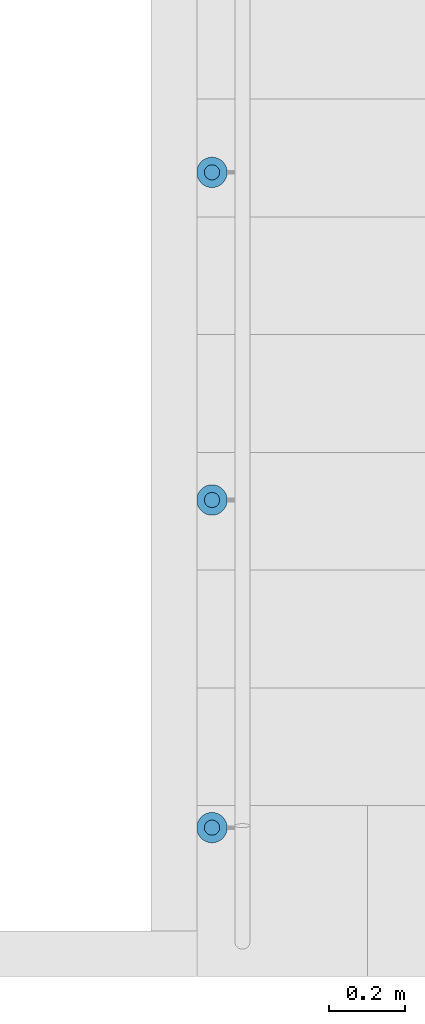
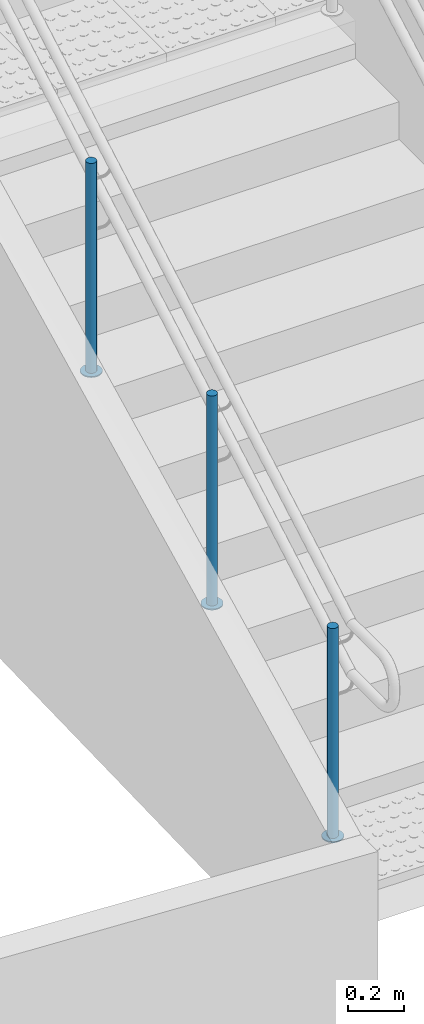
# One storey, part 84 of 237: 6 building element parts, 1 element without a shape of its own.
"""IFC2X3 building model written with IfcOpenShell, lengths in millimetres."""

from ifc_helpers import new_model, entity, si_unit, converted_unit, derived_unit, money_unit, direction, frame, origin_with_axes, place, context, subcontext, project, spatial, faceted_brep, material, type_object, element, aggregate, save


model = new_model("IFC2X3")

# Units and contexts
model_context = context("Model", 3, precision=0.01, world=origin_with_axes(), true_north=direction((0.0, 1.0)))
body_context = subcontext(model_context, "Body", "Model", "MODEL_VIEW")
ifc_project = project(units=[si_unit("LENGTHUNIT", "METRE", prefix="MILLI"), si_unit("AREAUNIT", "SQUARE_METRE"), si_unit("VOLUMEUNIT", "CUBIC_METRE"), converted_unit("PLANEANGLEUNIT", "DEGREE", entity("IfcPlaneAngleMeasure", 0.0174532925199), si_unit("PLANEANGLEUNIT", "RADIAN"), dimensions=[0, 0, 0, 0, 0, 0, 0]), money_unit("USD"), converted_unit("TIMEUNIT", "Year", entity("IfcTimeMeasure", 31556926.0), si_unit("TIMEUNIT", "SECOND"), dimensions=[0, 0, 1, 0, 0, 0, 0]), si_unit("MASSUNIT", "GRAM", prefix="KILO"), si_unit("THERMODYNAMICTEMPERATUREUNIT", "DEGREE_CELSIUS"), si_unit("LUMINOUSINTENSITYUNIT", "LUMEN"), si_unit("ENERGYUNIT", "JOULE", prefix="MEGA"), derived_unit("THERMALCONDUCTANCEUNIT", [(si_unit("POWERUNIT", "WATT"), 1), (si_unit("LENGTHUNIT", "METRE"), -1), (si_unit("THERMODYNAMICTEMPERATUREUNIT", "KELVIN"), -1)]), derived_unit("SPECIFICHEATCAPACITYUNIT", [(si_unit("ENERGYUNIT", "JOULE"), 1), (si_unit("MASSUNIT", "GRAM", prefix="KILO"), -1), (si_unit("THERMODYNAMICTEMPERATUREUNIT", "KELVIN"), -1)]), derived_unit("MASSDENSITYUNIT", [(si_unit("MASSUNIT", "GRAM", prefix="KILO"), 1), (si_unit("VOLUMEUNIT", "CUBIC_METRE"), -1)])], contexts=[model_context])

# Site, building, storey
site_placement = place(None, origin_with_axes())
site = spatial("IfcSite", under=ifc_project, at=site_placement, Name="Local", CompositionType="ELEMENT")
building_placement = place(site_placement, origin_with_axes())
building = spatial("IfcBuilding", under=site, at=building_placement, Name="Construção", CompositionType="ELEMENT")
storey_placement = place(building_placement, origin_with_axes())
storey = spatial("IfcBuildingStorey", under=building, at=storey_placement, Name="Pavimento Térreo", CompositionType="ELEMENT", Elevation=0.0)

# Railing, building element parts
railing_type = type_object("IfcRailingType", Name="Tipo de Guarda-Corpo", PredefinedType="NOTDEFINED")
railing_placement = place(storey_placement, frame((40562.4440926, 15092.6936335, -3109.00146785), z_axis=(0.0, 0.0, 1.0), x_axis=(1.0, 0.0, 0.0)))
railing = element("IfcRailing", 1, at=railing_placement, inside=storey, type_object=railing_type, Name="Guarda-Corpo - 001", PredefinedType="NOTDEFINED")
ifc_material_1 = material(Name="Aço - Inoxidável")
building_element_part_1_placement = place(railing_placement, origin_with_axes())
building_element_part_1 = element("IfcBuildingElementPart", 2, at=building_element_part_1_placement, material=ifc_material_1, Name="Aço - Inoxidável", context=body_context, shape_type="Brep", body=[
    faceted_brep([(20.3038449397, -2673.7990362, 27.7571550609), (20.0, -2677.27199975, 27.7571550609), (20.0, -2677.27199975, 942.757155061), (20.3038449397, -2673.7990362, 942.757155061), (20.3038449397, -2680.7449633, 27.7571550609), (21.2061475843, -2670.43159688, 27.7571550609), (22.6794919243, -2667.27199975, 27.7571550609), (24.6791111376, -2664.41624756, 27.7571550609), (27.1442478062, -2661.95111089, 27.7571550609), (30.0, -2659.95149168, 27.7571550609), (33.1595971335, -2658.47814734, 27.7571550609), (36.5270364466, -2657.57584469, 27.7571550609), (40.0, -2657.27199975, 27.7571550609), (43.4729635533, -2657.57584469, 27.7571550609), (46.8404028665, -2658.47814734, 27.7571550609), (50.0, -2659.95149168, 27.7571550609), (52.8557521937, -2661.95111089, 27.7571550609), (55.3208888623, -2664.41624756, 27.7571550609), (57.3205080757, -2667.27199975, 27.7571550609), (58.7938524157, -2670.43159688, 27.7571550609), (59.6961550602, -2673.7990362, 27.7571550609), (60.0, -2677.27199975, 27.7571550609), (59.6961550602, -2680.7449633, 27.7571550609), (58.7938524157, -2684.11240262, 27.7571550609), (57.3205080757, -2687.27199975, 27.7571550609), (55.3208888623, -2690.12775195, 27.7571550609), (52.8557521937, -2692.59288861, 27.7571550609), (50.0, -2694.59250783, 27.7571550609), (46.8404028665, -2696.06585217, 27.7571550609), (43.4729635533, -2696.96815481, 27.7571550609), (40.0, -2697.27199975, 27.7571550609), (36.5270364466, -2696.96815481, 27.7571550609), (33.1595971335, -2696.06585217, 27.7571550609), (30.0, -2694.59250783, 27.7571550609), (27.1442478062, -2692.59288861, 27.7571550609), (24.6791111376, -2690.12775195, 27.7571550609), (22.6794919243, -2687.27199975, 27.7571550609), (21.2061475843, -2684.11240262, 27.7571550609), (20.3038449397, -2680.7449633, 942.757155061), (43.4729635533, -2657.57584469, 942.757155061), (40.0, -2657.27199975, 942.757155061), (36.5270364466, -2657.57584469, 942.757155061), (33.1595971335, -2658.47814734, 942.757155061), (30.0, -2659.95149168, 942.757155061), (27.1442478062, -2661.95111089, 942.757155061), (24.6791111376, -2664.41624756, 942.757155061), (22.6794919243, -2667.27199975, 942.757155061), (21.2061475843, -2670.43159688, 942.757155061), (21.2061475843, -2684.11240262, 942.757155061), (22.6794919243, -2687.27199975, 942.757155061), (24.6791111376, -2690.12775195, 942.757155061), (27.1442478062, -2692.59288861, 942.757155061), (30.0, -2694.59250783, 942.757155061), (33.1595971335, -2696.06585217, 942.757155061), (36.5270364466, -2696.96815481, 942.757155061), (40.0, -2697.27199975, 942.757155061), (43.4729635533, -2696.96815481, 942.757155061), (46.8404028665, -2696.06585217, 942.757155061), (50.0, -2694.59250783, 942.757155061), (52.8557521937, -2692.59288861, 942.757155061), (55.3208888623, -2690.12775195, 942.757155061), (57.3205080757, -2687.27199975, 942.757155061), (58.7938524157, -2684.11240262, 942.757155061), (59.6961550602, -2680.7449633, 942.757155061), (60.0, -2677.27199975, 942.757155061), (59.6961550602, -2673.7990362, 942.757155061), (58.7938524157, -2670.43159688, 942.757155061), (57.3205080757, -2667.27199975, 942.757155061), (55.3208888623, -2664.41624756, 942.757155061), (52.8557521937, -2661.95111089, 942.757155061), (50.0, -2659.95149168, 942.757155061), (46.8404028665, -2658.47814734, 942.757155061)], [[[0, 1, 2, 3]], [[4, 1, 0, 5, 6, 7, 8, 9, 10, 11, 12, 13, 14, 15, 16, 17, 18, 19, 20, 21, 22, 23, 24, 25, 26, 27, 28, 29, 30, 31, 32, 33, 34, 35, 36, 37]], [[1, 4, 38, 2]], [[39, 40, 41, 42, 43, 44, 45, 46, 47, 3, 2, 38, 48, 49, 50, 51, 52, 53, 54, 55, 56, 57, 58, 59, 60, 61, 62, 63, 64, 65, 66, 67, 68, 69, 70, 71]], [[5, 0, 3, 47]], [[6, 5, 47, 46]], [[7, 6, 46, 45]], [[8, 7, 45, 44]], [[9, 8, 44, 43]], [[10, 9, 43, 42]], [[11, 10, 42, 41]], [[12, 11, 41, 40]], [[13, 12, 40, 39]], [[14, 13, 39, 71]], [[15, 14, 71, 70]], [[16, 15, 70, 69]], [[17, 16, 69, 68]], [[18, 17, 68, 67]], [[19, 18, 67, 66]], [[20, 19, 66, 65]], [[21, 20, 65, 64]], [[22, 21, 64, 63]], [[23, 22, 63, 62]], [[24, 23, 62, 61]], [[25, 24, 61, 60]], [[26, 25, 60, 59]], [[27, 26, 59, 58]], [[28, 27, 58, 57]], [[29, 28, 57, 56]], [[30, 29, 56, 55]], [[31, 30, 55, 54]], [[32, 31, 54, 53]], [[33, 32, 53, 52]], [[34, 33, 52, 51]], [[35, 34, 51, 50]], [[36, 35, 50, 49]], [[37, 36, 49, 48]], [[4, 37, 48, 38]]]),
])
ifc_material_2 = material(Name="Alumínio")
building_element_part_2_placement = place(railing_placement, origin_with_axes())
building_element_part_2 = element("IfcBuildingElementPart", 3, at=building_element_part_2_placement, material=ifc_material_2, Name="Alumínio", context=body_context, shape_type="Brep", body=[
    faceted_brep([(40.0, -2717.27199975, 22.7571550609), (46.9459271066, -2716.66430987, 22.7571550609), (46.9459271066, -2716.66430987, 27.7571550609), (40.0, -2717.27199975, 27.7571550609), (33.0540728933, -2716.66430987, 22.7571550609), (26.3191942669, -2714.85970458, 22.7571550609), (20.0, -2711.9130159, 22.7571550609), (14.2884956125, -2707.91377748, 22.7571550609), (9.35822227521, -2702.98350414, 22.7571550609), (5.35898384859, -2697.27199975, 22.7571550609), (2.41229516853, -2690.95280548, 22.7571550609), (0.60768987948, -2684.21792686, 22.7571550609), (0.0, -2677.27199975, 22.7571550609), (0.60768987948, -2670.32607264, 22.7571550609), (2.41229516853, -2663.59119402, 22.7571550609), (5.35898384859, -2657.27199975, 22.7571550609), (9.35822227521, -2651.56049536, 22.7571550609), (14.2884956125, -2646.63022203, 22.7571550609), (20.0, -2642.6309836, 22.7571550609), (26.3191942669, -2639.68429492, 22.7571550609), (33.0540728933, -2637.87968963, 22.7571550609), (40.0, -2637.27199975, 22.7571550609), (46.9459271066, -2637.87968963, 22.7571550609), (53.680805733, -2639.68429492, 22.7571550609), (60.0, -2642.6309836, 22.7571550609), (65.7115043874, -2646.63022203, 22.7571550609), (70.6417777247, -2651.56049536, 22.7571550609), (74.6410161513, -2657.27199975, 22.7571550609), (77.5877048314, -2663.59119402, 22.7571550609), (79.3923101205, -2670.32607264, 22.7571550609), (80.0, -2677.27199975, 22.7571550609), (79.3923101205, -2684.21792686, 22.7571550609), (77.5877048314, -2690.95280548, 22.7571550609), (74.6410161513, -2697.27199975, 22.7571550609), (70.6417777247, -2702.98350414, 22.7571550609), (65.7115043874, -2707.91377748, 22.7571550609), (60.0, -2711.9130159, 22.7571550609), (53.680805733, -2714.85970458, 22.7571550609), (53.680805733, -2714.85970458, 27.7571550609), (60.0, -2711.9130159, 27.7571550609), (65.7115043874, -2707.91377748, 27.7571550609), (70.6417777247, -2702.98350414, 27.7571550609), (74.6410161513, -2697.27199975, 27.7571550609), (77.5877048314, -2690.95280548, 27.7571550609), (79.3923101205, -2684.21792686, 27.7571550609), (80.0, -2677.27199975, 27.7571550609), (79.3923101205, -2670.32607264, 27.7571550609), (77.5877048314, -2663.59119402, 27.7571550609), (74.6410161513, -2657.27199975, 27.7571550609), (70.6417777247, -2651.56049536, 27.7571550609), (65.7115043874, -2646.63022203, 27.7571550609), (60.0, -2642.6309836, 27.7571550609), (53.680805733, -2639.68429492, 27.7571550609), (46.9459271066, -2637.87968963, 27.7571550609), (40.0, -2637.27199975, 27.7571550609), (33.0540728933, -2637.87968963, 27.7571550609), (26.3191942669, -2639.68429492, 27.7571550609), (20.0, -2642.6309836, 27.7571550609), (14.2884956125, -2646.63022203, 27.7571550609), (9.35822227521, -2651.56049536, 27.7571550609), (5.35898384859, -2657.27199975, 27.7571550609), (2.41229516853, -2663.59119402, 27.7571550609), (0.60768987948, -2670.32607264, 27.7571550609), (0.0, -2677.27199975, 27.7571550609), (0.60768987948, -2684.21792686, 27.7571550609), (2.41229516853, -2690.95280548, 27.7571550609), (5.35898384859, -2697.27199975, 27.7571550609), (9.35822227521, -2702.98350414, 27.7571550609), (14.2884956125, -2707.91377748, 27.7571550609), (20.0, -2711.9130159, 27.7571550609), (26.3191942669, -2714.85970458, 27.7571550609), (33.0540728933, -2716.66430987, 27.7571550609)], [[[0, 1, 2, 3]], [[0, 4, 5, 6, 7, 8, 9, 10, 11, 12, 13, 14, 15, 16, 17, 18, 19, 20, 21, 22, 23, 24, 25, 26, 27, 28, 29, 30, 31, 32, 33, 34, 35, 36, 37, 1]], [[1, 37, 38, 2]], [[3, 2, 38, 39, 40, 41, 42, 43, 44, 45, 46, 47, 48, 49, 50, 51, 52, 53, 54, 55, 56, 57, 58, 59, 60, 61, 62, 63, 64, 65, 66, 67, 68, 69, 70, 71]], [[4, 0, 3, 71]], [[5, 4, 71, 70]], [[6, 5, 70, 69]], [[7, 6, 69, 68]], [[8, 7, 68, 67]], [[9, 8, 67, 66]], [[10, 9, 66, 65]], [[11, 10, 65, 64]], [[12, 11, 64, 63]], [[13, 12, 63, 62]], [[14, 13, 62, 61]], [[15, 14, 61, 60]], [[16, 15, 60, 59]], [[17, 16, 59, 58]], [[18, 17, 58, 57]], [[19, 18, 57, 56]], [[20, 19, 56, 55]], [[21, 20, 55, 54]], [[22, 21, 54, 53]], [[23, 22, 53, 52]], [[24, 23, 52, 51]], [[25, 24, 51, 50]], [[26, 25, 50, 49]], [[27, 26, 49, 48]], [[28, 27, 48, 47]], [[29, 28, 47, 46]], [[30, 29, 46, 45]], [[31, 30, 45, 44]], [[32, 31, 44, 43]], [[33, 32, 43, 42]], [[34, 33, 42, 41]], [[35, 34, 41, 40]], [[36, 35, 40, 39]], [[37, 36, 39, 38]]]),
])
building_element_part_3_placement = place(railing_placement, origin_with_axes())
building_element_part_3 = element("IfcBuildingElementPart", 4, at=building_element_part_3_placement, material=ifc_material_1, Name="Aço - Inoxidável", context=body_context, shape_type="Brep", body=[
    faceted_brep([(20.3038449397, -948.508330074, 1009.32485817), (20.0, -951.981293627, 1009.32485817), (20.0, -951.981293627, 1924.32485817), (20.3038449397, -948.508330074, 1924.32485817), (20.3038449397, -955.45425718, 1009.32485817), (21.2061475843, -945.14089076, 1009.32485817), (22.6794919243, -941.981293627, 1009.32485817), (24.6791111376, -939.125541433, 1009.32485817), (27.1442478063, -936.660404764, 1009.32485817), (30.0, -934.660785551, 1009.32485817), (33.1595971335, -933.187441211, 1009.32485817), (36.5270364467, -932.285138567, 1009.32485817), (40.0, -931.981293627, 1009.32485817), (43.4729635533, -932.285138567, 1009.32485817), (46.8404028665, -933.187441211, 1009.32485817), (50.0, -934.660785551, 1009.32485817), (52.8557521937, -936.660404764, 1009.32485817), (55.3208888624, -939.125541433, 1009.32485817), (57.3205080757, -941.981293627, 1009.32485817), (58.7938524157, -945.14089076, 1009.32485817), (59.6961550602, -948.508330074, 1009.32485817), (60.0, -951.981293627, 1009.32485817), (59.6961550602, -955.45425718, 1009.32485817), (58.7938524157, -958.821696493, 1009.32485817), (57.3205080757, -961.981293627, 1009.32485817), (55.3208888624, -964.837045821, 1009.32485817), (52.8557521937, -967.302182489, 1009.32485817), (50.0, -969.301801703, 1009.32485817), (46.8404028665, -970.775146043, 1009.32485817), (43.4729635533, -971.677448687, 1009.32485817), (40.0, -971.981293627, 1009.32485817), (36.5270364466, -971.677448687, 1009.32485817), (33.1595971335, -970.775146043, 1009.32485817), (30.0, -969.301801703, 1009.32485817), (27.1442478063, -967.302182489, 1009.32485817), (24.6791111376, -964.837045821, 1009.32485817), (22.6794919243, -961.981293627, 1009.32485817), (21.2061475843, -958.821696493, 1009.32485817), (20.3038449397, -955.45425718, 1924.32485817), (43.4729635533, -932.285138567, 1924.32485817), (40.0, -931.981293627, 1924.32485817), (36.5270364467, -932.285138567, 1924.32485817), (33.1595971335, -933.187441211, 1924.32485817), (30.0, -934.660785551, 1924.32485817), (27.1442478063, -936.660404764, 1924.32485817), (24.6791111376, -939.125541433, 1924.32485817), (22.6794919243, -941.981293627, 1924.32485817), (21.2061475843, -945.14089076, 1924.32485817), (21.2061475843, -958.821696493, 1924.32485817), (22.6794919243, -961.981293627, 1924.32485817), (24.6791111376, -964.837045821, 1924.32485817), (27.1442478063, -967.302182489, 1924.32485817), (30.0, -969.301801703, 1924.32485817), (33.1595971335, -970.775146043, 1924.32485817), (36.5270364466, -971.677448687, 1924.32485817), (40.0, -971.981293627, 1924.32485817), (43.4729635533, -971.677448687, 1924.32485817), (46.8404028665, -970.775146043, 1924.32485817), (50.0, -969.301801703, 1924.32485817), (52.8557521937, -967.302182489, 1924.32485817), (55.3208888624, -964.837045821, 1924.32485817), (57.3205080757, -961.981293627, 1924.32485817), (58.7938524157, -958.821696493, 1924.32485817), (59.6961550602, -955.45425718, 1924.32485817), (60.0, -951.981293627, 1924.32485817), (59.6961550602, -948.508330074, 1924.32485817), (58.7938524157, -945.14089076, 1924.32485817), (57.3205080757, -941.981293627, 1924.32485817), (55.3208888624, -939.125541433, 1924.32485817), (52.8557521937, -936.660404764, 1924.32485817), (50.0, -934.660785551, 1924.32485817), (46.8404028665, -933.187441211, 1924.32485817)], [[[0, 1, 2, 3]], [[4, 1, 0, 5, 6, 7, 8, 9, 10, 11, 12, 13, 14, 15, 16, 17, 18, 19, 20, 21, 22, 23, 24, 25, 26, 27, 28, 29, 30, 31, 32, 33, 34, 35, 36, 37]], [[1, 4, 38, 2]], [[39, 40, 41, 42, 43, 44, 45, 46, 47, 3, 2, 38, 48, 49, 50, 51, 52, 53, 54, 55, 56, 57, 58, 59, 60, 61, 62, 63, 64, 65, 66, 67, 68, 69, 70, 71]], [[5, 0, 3, 47]], [[6, 5, 47, 46]], [[7, 6, 46, 45]], [[8, 7, 45, 44]], [[9, 8, 44, 43]], [[10, 9, 43, 42]], [[11, 10, 42, 41]], [[12, 11, 41, 40]], [[13, 12, 40, 39]], [[14, 13, 39, 71]], [[15, 14, 71, 70]], [[16, 15, 70, 69]], [[17, 16, 69, 68]], [[18, 17, 68, 67]], [[19, 18, 67, 66]], [[20, 19, 66, 65]], [[21, 20, 65, 64]], [[22, 21, 64, 63]], [[23, 22, 63, 62]], [[24, 23, 62, 61]], [[25, 24, 61, 60]], [[26, 25, 60, 59]], [[27, 26, 59, 58]], [[28, 27, 58, 57]], [[29, 28, 57, 56]], [[30, 29, 56, 55]], [[31, 30, 55, 54]], [[32, 31, 54, 53]], [[33, 32, 53, 52]], [[34, 33, 52, 51]], [[35, 34, 51, 50]], [[36, 35, 50, 49]], [[37, 36, 49, 48]], [[4, 37, 48, 38]]]),
])
building_element_part_4_placement = place(railing_placement, origin_with_axes())
building_element_part_4 = element("IfcBuildingElementPart", 5, at=building_element_part_4_placement, material=ifc_material_2, Name="Alumínio", context=body_context, shape_type="Brep", body=[
    faceted_brep([(40.0, -991.981293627, 1004.32485817), (46.9459271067, -991.373603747, 1004.32485817), (46.9459271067, -991.373603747, 1009.32485817), (40.0, -991.981293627, 1009.32485817), (33.0540728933, -991.373603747, 1004.32485817), (26.319194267, -989.568998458, 1004.32485817), (20.0, -986.622309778, 1004.32485817), (14.2884956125, -982.623071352, 1004.32485817), (9.35822227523, -977.692798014, 1004.32485817), (5.35898384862, -971.981293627, 1004.32485817), (2.41229516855, -965.66209936, 1004.32485817), (0.607689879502, -958.927220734, 1004.32485817), (0.0, -951.981293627, 1004.32485817), (0.607689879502, -945.03536652, 1004.32485817), (2.41229516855, -938.300487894, 1004.32485817), (5.35898384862, -931.981293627, 1004.32485817), (9.35822227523, -926.269789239, 1004.32485817), (14.2884956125, -921.339515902, 1004.32485817), (20.0, -917.340277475, 1004.32485817), (26.319194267, -914.393588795, 1004.32485817), (33.0540728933, -912.588983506, 1004.32485817), (40.0, -911.981293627, 1004.32485817), (46.9459271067, -912.588983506, 1004.32485817), (53.680805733, -914.393588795, 1004.32485817), (60.0, -917.340277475, 1004.32485817), (65.7115043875, -921.339515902, 1004.32485817), (70.6417777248, -926.269789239, 1004.32485817), (74.6410161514, -931.981293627, 1004.32485817), (77.5877048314, -938.300487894, 1004.32485817), (79.3923101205, -945.03536652, 1004.32485817), (80.0, -951.981293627, 1004.32485817), (79.3923101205, -958.927220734, 1004.32485817), (77.5877048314, -965.66209936, 1004.32485817), (74.6410161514, -971.981293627, 1004.32485817), (70.6417777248, -977.692798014, 1004.32485817), (65.7115043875, -982.623071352, 1004.32485817), (60.0, -986.622309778, 1004.32485817), (53.680805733, -989.568998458, 1004.32485817), (53.680805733, -989.568998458, 1009.32485817), (60.0, -986.622309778, 1009.32485817), (65.7115043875, -982.623071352, 1009.32485817), (70.6417777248, -977.692798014, 1009.32485817), (74.6410161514, -971.981293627, 1009.32485817), (77.5877048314, -965.66209936, 1009.32485817), (79.3923101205, -958.927220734, 1009.32485817), (80.0, -951.981293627, 1009.32485817), (79.3923101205, -945.03536652, 1009.32485817), (77.5877048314, -938.300487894, 1009.32485817), (74.6410161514, -931.981293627, 1009.32485817), (70.6417777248, -926.269789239, 1009.32485817), (65.7115043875, -921.339515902, 1009.32485817), (60.0, -917.340277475, 1009.32485817), (53.680805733, -914.393588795, 1009.32485817), (46.9459271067, -912.588983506, 1009.32485817), (40.0, -911.981293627, 1009.32485817), (33.0540728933, -912.588983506, 1009.32485817), (26.319194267, -914.393588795, 1009.32485817), (20.0, -917.340277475, 1009.32485817), (14.2884956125, -921.339515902, 1009.32485817), (9.35822227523, -926.269789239, 1009.32485817), (5.35898384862, -931.981293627, 1009.32485817), (2.41229516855, -938.300487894, 1009.32485817), (0.607689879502, -945.03536652, 1009.32485817), (0.0, -951.981293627, 1009.32485817), (0.607689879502, -958.927220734, 1009.32485817), (2.41229516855, -965.66209936, 1009.32485817), (5.35898384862, -971.981293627, 1009.32485817), (9.35822227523, -977.692798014, 1009.32485817), (14.2884956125, -982.623071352, 1009.32485817), (20.0, -986.622309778, 1009.32485817), (26.319194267, -989.568998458, 1009.32485817), (33.0540728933, -991.373603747, 1009.32485817)], [[[0, 1, 2, 3]], [[0, 4, 5, 6, 7, 8, 9, 10, 11, 12, 13, 14, 15, 16, 17, 18, 19, 20, 21, 22, 23, 24, 25, 26, 27, 28, 29, 30, 31, 32, 33, 34, 35, 36, 37, 1]], [[1, 37, 38, 2]], [[3, 2, 38, 39, 40, 41, 42, 43, 44, 45, 46, 47, 48, 49, 50, 51, 52, 53, 54, 55, 56, 57, 58, 59, 60, 61, 62, 63, 64, 65, 66, 67, 68, 69, 70, 71]], [[4, 0, 3, 71]], [[5, 4, 71, 70]], [[6, 5, 70, 69]], [[7, 6, 69, 68]], [[8, 7, 68, 67]], [[9, 8, 67, 66]], [[10, 9, 66, 65]], [[11, 10, 65, 64]], [[12, 11, 64, 63]], [[13, 12, 63, 62]], [[14, 13, 62, 61]], [[15, 14, 61, 60]], [[16, 15, 60, 59]], [[17, 16, 59, 58]], [[18, 17, 58, 57]], [[19, 18, 57, 56]], [[20, 19, 56, 55]], [[21, 20, 55, 54]], [[22, 21, 54, 53]], [[23, 22, 53, 52]], [[24, 23, 52, 51]], [[25, 24, 51, 50]], [[26, 25, 50, 49]], [[27, 26, 49, 48]], [[28, 27, 48, 47]], [[29, 28, 47, 46]], [[30, 29, 46, 45]], [[31, 30, 45, 44]], [[32, 31, 44, 43]], [[33, 32, 43, 42]], [[34, 33, 42, 41]], [[35, 34, 41, 40]], [[36, 35, 40, 39]], [[37, 36, 39, 38]]]),
])
building_element_part_5_placement = place(railing_placement, origin_with_axes())
building_element_part_5 = element("IfcBuildingElementPart", 6, at=building_element_part_5_placement, material=ifc_material_1, Name="Aço - Inoxidável", context=body_context, shape_type="Brep", body=[
    faceted_brep([(20.3038449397, -1811.15368314, 518.541006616), (20.0, -1814.62664669, 518.541006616), (20.0, -1814.62664669, 1433.54100662), (20.3038449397, -1811.15368314, 1433.54100662), (20.3038449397, -1818.09961024, 518.541006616), (21.2061475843, -1807.78624382, 518.541006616), (22.6794919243, -1804.62664669, 518.541006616), (24.6791111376, -1801.7708945, 518.541006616), (27.1442478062, -1799.30575783, 518.541006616), (30.0, -1797.30613861, 518.541006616), (33.1595971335, -1795.83279427, 518.541006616), (36.5270364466, -1794.93049163, 518.541006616), (40.0, -1794.62664669, 518.541006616), (43.4729635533, -1794.93049163, 518.541006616), (46.8404028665, -1795.83279427, 518.541006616), (50.0, -1797.30613861, 518.541006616), (52.8557521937, -1799.30575783, 518.541006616), (55.3208888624, -1801.7708945, 518.541006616), (57.3205080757, -1804.62664669, 518.541006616), (58.7938524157, -1807.78624382, 518.541006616), (59.6961550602, -1811.15368314, 518.541006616), (60.0, -1814.62664669, 518.541006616), (59.6961550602, -1818.09961024, 518.541006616), (58.7938524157, -1821.46704956, 518.541006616), (57.3205080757, -1824.62664669, 518.541006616), (55.3208888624, -1827.48239888, 518.541006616), (52.8557521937, -1829.94753555, 518.541006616), (50.0, -1831.94715476, 518.541006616), (46.8404028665, -1833.4204991, 518.541006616), (43.4729635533, -1834.32280175, 518.541006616), (40.0, -1834.62664669, 518.541006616), (36.5270364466, -1834.32280175, 518.541006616), (33.1595971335, -1833.4204991, 518.541006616), (30.0, -1831.94715476, 518.541006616), (27.1442478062, -1829.94753555, 518.541006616), (24.6791111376, -1827.48239888, 518.541006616), (22.6794919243, -1824.62664669, 518.541006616), (21.2061475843, -1821.46704956, 518.541006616), (20.3038449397, -1818.09961024, 1433.54100662), (43.4729635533, -1794.93049163, 1433.54100662), (40.0, -1794.62664669, 1433.54100662), (36.5270364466, -1794.93049163, 1433.54100662), (33.1595971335, -1795.83279427, 1433.54100662), (30.0, -1797.30613861, 1433.54100662), (27.1442478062, -1799.30575783, 1433.54100662), (24.6791111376, -1801.7708945, 1433.54100662), (22.6794919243, -1804.62664669, 1433.54100662), (21.2061475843, -1807.78624382, 1433.54100662), (21.2061475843, -1821.46704956, 1433.54100662), (22.6794919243, -1824.62664669, 1433.54100662), (24.6791111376, -1827.48239888, 1433.54100662), (27.1442478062, -1829.94753555, 1433.54100662), (30.0, -1831.94715476, 1433.54100662), (33.1595971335, -1833.4204991, 1433.54100662), (36.5270364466, -1834.32280175, 1433.54100662), (40.0, -1834.62664669, 1433.54100662), (43.4729635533, -1834.32280175, 1433.54100662), (46.8404028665, -1833.4204991, 1433.54100662), (50.0, -1831.94715476, 1433.54100662), (52.8557521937, -1829.94753555, 1433.54100662), (55.3208888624, -1827.48239888, 1433.54100662), (57.3205080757, -1824.62664669, 1433.54100662), (58.7938524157, -1821.46704956, 1433.54100662), (59.6961550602, -1818.09961024, 1433.54100662), (60.0, -1814.62664669, 1433.54100662), (59.6961550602, -1811.15368314, 1433.54100662), (58.7938524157, -1807.78624382, 1433.54100662), (57.3205080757, -1804.62664669, 1433.54100662), (55.3208888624, -1801.7708945, 1433.54100662), (52.8557521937, -1799.30575783, 1433.54100662), (50.0, -1797.30613861, 1433.54100662), (46.8404028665, -1795.83279427, 1433.54100662)], [[[0, 1, 2, 3]], [[4, 1, 0, 5, 6, 7, 8, 9, 10, 11, 12, 13, 14, 15, 16, 17, 18, 19, 20, 21, 22, 23, 24, 25, 26, 27, 28, 29, 30, 31, 32, 33, 34, 35, 36, 37]], [[1, 4, 38, 2]], [[39, 40, 41, 42, 43, 44, 45, 46, 47, 3, 2, 38, 48, 49, 50, 51, 52, 53, 54, 55, 56, 57, 58, 59, 60, 61, 62, 63, 64, 65, 66, 67, 68, 69, 70, 71]], [[5, 0, 3, 47]], [[6, 5, 47, 46]], [[7, 6, 46, 45]], [[8, 7, 45, 44]], [[9, 8, 44, 43]], [[10, 9, 43, 42]], [[11, 10, 42, 41]], [[12, 11, 41, 40]], [[13, 12, 40, 39]], [[14, 13, 39, 71]], [[15, 14, 71, 70]], [[16, 15, 70, 69]], [[17, 16, 69, 68]], [[18, 17, 68, 67]], [[19, 18, 67, 66]], [[20, 19, 66, 65]], [[21, 20, 65, 64]], [[22, 21, 64, 63]], [[23, 22, 63, 62]], [[24, 23, 62, 61]], [[25, 24, 61, 60]], [[26, 25, 60, 59]], [[27, 26, 59, 58]], [[28, 27, 58, 57]], [[29, 28, 57, 56]], [[30, 29, 56, 55]], [[31, 30, 55, 54]], [[32, 31, 54, 53]], [[33, 32, 53, 52]], [[34, 33, 52, 51]], [[35, 34, 51, 50]], [[36, 35, 50, 49]], [[37, 36, 49, 48]], [[4, 37, 48, 38]]]),
])
building_element_part_6_placement = place(railing_placement, origin_with_axes())
building_element_part_6 = element("IfcBuildingElementPart", 7, at=building_element_part_6_placement, material=ifc_material_2, Name="Alumínio", context=body_context, shape_type="Brep", body=[
    faceted_brep([(40.0, -1854.62664669, 513.541006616), (46.9459271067, -1854.01895681, 513.541006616), (46.9459271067, -1854.01895681, 518.541006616), (40.0, -1854.62664669, 518.541006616), (33.0540728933, -1854.01895681, 513.541006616), (26.319194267, -1852.21435152, 513.541006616), (20.0, -1849.26766284, 513.541006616), (14.2884956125, -1845.26842441, 513.541006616), (9.35822227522, -1840.33815108, 513.541006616), (5.3589838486, -1834.62664669, 513.541006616), (2.41229516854, -1828.30745242, 513.541006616), (0.607689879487, -1821.5725738, 513.541006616), (0.0, -1814.62664669, 513.541006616), (0.607689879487, -1807.68071958, 513.541006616), (2.41229516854, -1800.94584096, 513.541006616), (5.3589838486, -1794.62664669, 513.541006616), (9.35822227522, -1788.9151423, 513.541006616), (14.2884956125, -1783.98486896, 513.541006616), (20.0, -1779.98563054, 513.541006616), (26.319194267, -1777.03894186, 513.541006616), (33.0540728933, -1775.23433657, 513.541006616), (40.0, -1774.62664669, 513.541006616), (46.9459271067, -1775.23433657, 513.541006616), (53.680805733, -1777.03894186, 513.541006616), (60.0, -1779.98563054, 513.541006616), (65.7115043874, -1783.98486896, 513.541006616), (70.6417777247, -1788.9151423, 513.541006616), (74.6410161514, -1794.62664669, 513.541006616), (77.5877048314, -1800.94584096, 513.541006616), (79.3923101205, -1807.68071958, 513.541006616), (80.0, -1814.62664669, 513.541006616), (79.3923101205, -1821.5725738, 513.541006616), (77.5877048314, -1828.30745242, 513.541006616), (74.6410161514, -1834.62664669, 513.541006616), (70.6417777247, -1840.33815108, 513.541006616), (65.7115043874, -1845.26842441, 513.541006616), (60.0, -1849.26766284, 513.541006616), (53.680805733, -1852.21435152, 513.541006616), (53.680805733, -1852.21435152, 518.541006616), (60.0, -1849.26766284, 518.541006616), (65.7115043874, -1845.26842441, 518.541006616), (70.6417777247, -1840.33815108, 518.541006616), (74.6410161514, -1834.62664669, 518.541006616), (77.5877048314, -1828.30745242, 518.541006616), (79.3923101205, -1821.5725738, 518.541006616), (80.0, -1814.62664669, 518.541006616), (79.3923101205, -1807.68071958, 518.541006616), (77.5877048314, -1800.94584096, 518.541006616), (74.6410161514, -1794.62664669, 518.541006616), (70.6417777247, -1788.9151423, 518.541006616), (65.7115043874, -1783.98486896, 518.541006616), (60.0, -1779.98563054, 518.541006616), (53.680805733, -1777.03894186, 518.541006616), (46.9459271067, -1775.23433657, 518.541006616), (40.0, -1774.62664669, 518.541006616), (33.0540728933, -1775.23433657, 518.541006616), (26.319194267, -1777.03894186, 518.541006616), (20.0, -1779.98563054, 518.541006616), (14.2884956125, -1783.98486896, 518.541006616), (9.35822227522, -1788.9151423, 518.541006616), (5.3589838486, -1794.62664669, 518.541006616), (2.41229516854, -1800.94584096, 518.541006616), (0.607689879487, -1807.68071958, 518.541006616), (0.0, -1814.62664669, 518.541006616), (0.607689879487, -1821.5725738, 518.541006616), (2.41229516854, -1828.30745242, 518.541006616), (5.3589838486, -1834.62664669, 518.541006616), (9.35822227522, -1840.33815108, 518.541006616), (14.2884956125, -1845.26842441, 518.541006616), (20.0, -1849.26766284, 518.541006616), (26.319194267, -1852.21435152, 518.541006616), (33.0540728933, -1854.01895681, 518.541006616)], [[[0, 1, 2, 3]], [[0, 4, 5, 6, 7, 8, 9, 10, 11, 12, 13, 14, 15, 16, 17, 18, 19, 20, 21, 22, 23, 24, 25, 26, 27, 28, 29, 30, 31, 32, 33, 34, 35, 36, 37, 1]], [[1, 37, 38, 2]], [[3, 2, 38, 39, 40, 41, 42, 43, 44, 45, 46, 47, 48, 49, 50, 51, 52, 53, 54, 55, 56, 57, 58, 59, 60, 61, 62, 63, 64, 65, 66, 67, 68, 69, 70, 71]], [[4, 0, 3, 71]], [[5, 4, 71, 70]], [[6, 5, 70, 69]], [[7, 6, 69, 68]], [[8, 7, 68, 67]], [[9, 8, 67, 66]], [[10, 9, 66, 65]], [[11, 10, 65, 64]], [[12, 11, 64, 63]], [[13, 12, 63, 62]], [[14, 13, 62, 61]], [[15, 14, 61, 60]], [[16, 15, 60, 59]], [[17, 16, 59, 58]], [[18, 17, 58, 57]], [[19, 18, 57, 56]], [[20, 19, 56, 55]], [[21, 20, 55, 54]], [[22, 21, 54, 53]], [[23, 22, 53, 52]], [[24, 23, 52, 51]], [[25, 24, 51, 50]], [[26, 25, 50, 49]], [[27, 26, 49, 48]], [[28, 27, 48, 47]], [[29, 28, 47, 46]], [[30, 29, 46, 45]], [[31, 30, 45, 44]], [[32, 31, 44, 43]], [[33, 32, 43, 42]], [[34, 33, 42, 41]], [[35, 34, 41, 40]], [[36, 35, 40, 39]], [[37, 36, 39, 38]]]),
])
aggregate(railing, [building_element_part_1, building_element_part_2, building_element_part_3, building_element_part_4, building_element_part_5, building_element_part_6])

save(model, "model.ifc")
